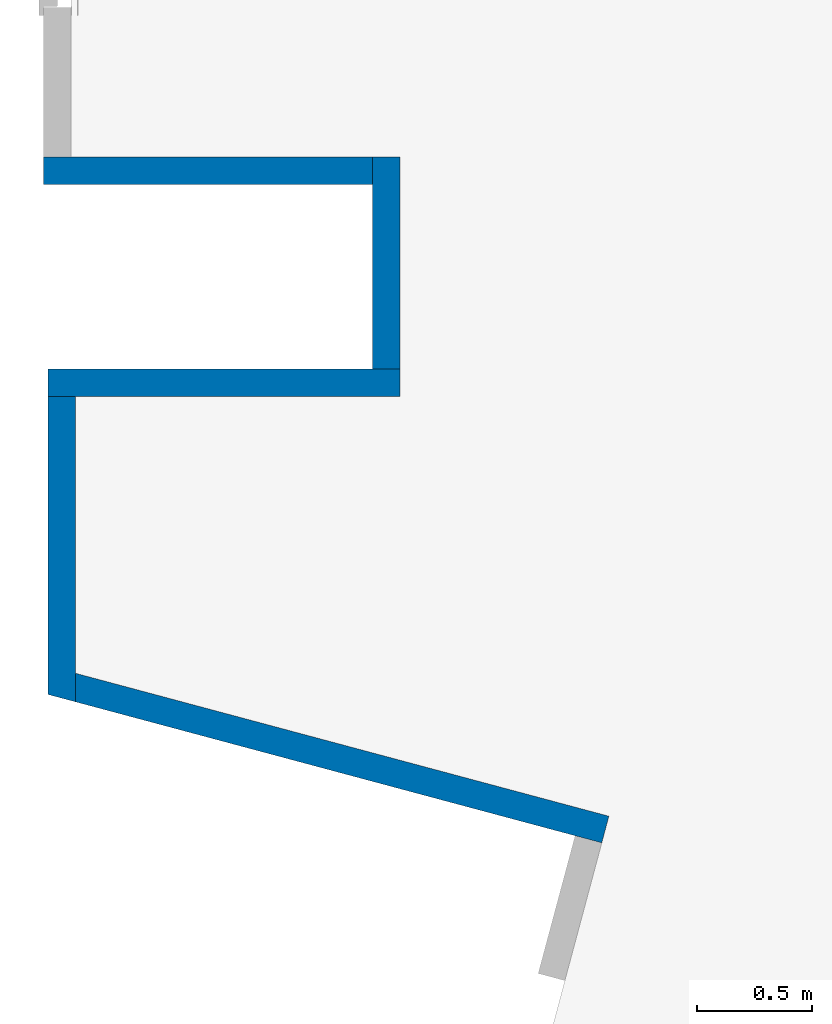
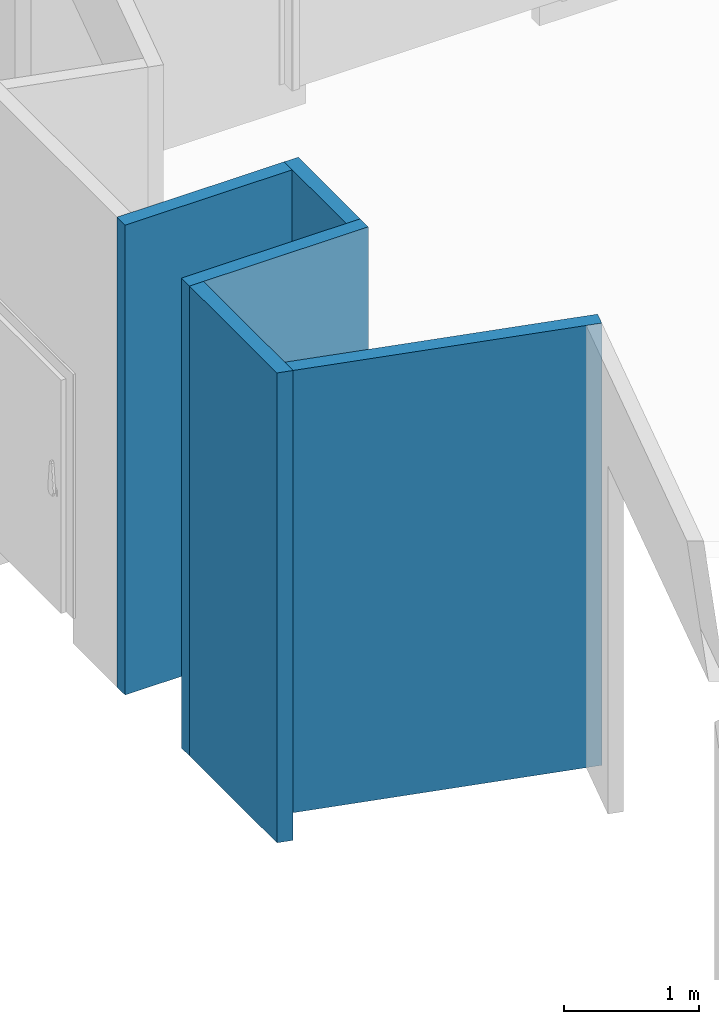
# One storey, part 4 of 652: 5 walls.
"""IFC2X3 building model written with IfcOpenShell, lengths in millimetres."""

from ifc_helpers import new_model, entity, si_unit, converted_unit, direction, frame, frame_2d, origin, place, context, subcontext, project, spatial, polyline, rectangle, outline, extrude, material, layer, layer_set, layer_usage, type_object, element, save


model = new_model("IFC2X3")

# Units and contexts
model_context = context("Model", 3, precision=0.01, world=frame((0.0, 0.0, 308426.39999999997)), true_north=direction((6.123233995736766e-17, 1.0)))
plan_context = context("Plan", 3, precision=0.01, world=frame((0.0, 0.0, 308426.39999999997)), true_north=direction((6.123233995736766e-17, 1.0)))
body_context = subcontext(model_context, "Body", "Model", "MODEL_VIEW")
ifc_project = project(units=[si_unit("LENGTHUNIT", "METRE", prefix="MILLI"), si_unit("AREAUNIT", "SQUARE_METRE"), si_unit("VOLUMEUNIT", "CUBIC_METRE"), converted_unit("PLANEANGLEUNIT", "DEGREE", entity("IfcPlaneAngleMeasure", 0.017453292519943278), si_unit("PLANEANGLEUNIT", "RADIAN"), dimensions=[0, 0, 0, 0, 0, 0, 0])], contexts=[model_context, plan_context])

# Site, building, storey
site_placement = place(None, origin())
site = spatial("IfcSite", under=ifc_project, at=site_placement, Name="Default", CompositionType="ELEMENT")
building_placement = place(site_placement, origin())
building = spatial("IfcBuilding", under=site, at=building_placement, CompositionType="ELEMENT")
storey_placement = place(building_placement, frame((0.0, 0.0, 1730.6999999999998)))
storey = spatial("IfcBuildingStorey", under=building, at=storey_placement, Name="EG_Produktion_FFB", CompositionType="ELEMENT", Elevation=1730.6999999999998)

# Walls
ifc_material = material(Name="GPG_Paneelwand")
ifc_layer = layer(ifc_material, 120.0)
ifc_layer_set = layer_set([ifc_layer], Name="Basiswand:Kühlzellen Paneelwand 120")
ifc_layer_usage_1 = layer_usage(ifc_layer_set, "AXIS2", "NEGATIVE", 60.0)
wall_type = type_object("IfcWallType", Name="Basiswand:Kühlzellen Paneelwand 120", PredefinedType="STANDARD", material=ifc_layer_set)
wall_1_placement = place(storey_placement, frame((9690.0, 51140.0, -250.0)))
element("IfcWallStandardCase", 1, at=wall_1_placement, inside=storey, type_object=wall_type, material=ifc_layer_usage_1, Name="Basiswand:Kühlzellen Paneelwand 120", ObjectType="Basiswand:Kühlzellen Paneelwand 120", context=body_context, shape_type="SweptSolid", body=[
    extrude(rectangle(XDim=1530.0000000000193, YDim=120.00000000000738, at=frame_2d((765.0000000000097, 0.0), x_axis=(-1.0, 0.0))), origin(), (0.0, 0.0, 1.0), 4250.0),
])
ifc_layer_usage_2 = layer_usage(ifc_layer_set, "AXIS2", "NEGATIVE", 60.0)
wall_2_placement = place(storey_placement, frame((11160.0, 51200.0, -250.0), z_axis=(0.0, 0.0, 1.0), x_axis=(0.0, 1.0, 0.0)))
element("IfcWallStandardCase", 2, at=wall_2_placement, inside=storey, type_object=wall_type, material=ifc_layer_usage_2, Name="Basiswand:Kühlzellen Paneelwand 120", ObjectType="Basiswand:Kühlzellen Paneelwand 120", context=body_context, shape_type="SweptSolid", body=[
    extrude(rectangle(XDim=919.9999999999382, YDim=119.9999999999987, at=frame_2d((459.9999999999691, 0.0), x_axis=(-1.0, 0.0))), origin(), (0.0, 0.0, 1.0), 4250.0),
])
ifc_layer_usage_3 = layer_usage(ifc_layer_set, "AXIS2", "NEGATIVE", 60.0)
wall_3_placement = place(storey_placement, frame((11100.0, 52060.0, -250.0), z_axis=(0.0, 0.0, 1.0), x_axis=(-1.0, 0.0, 0.0)))
element("IfcWallStandardCase", 3, at=wall_3_placement, inside=storey, type_object=wall_type, material=ifc_layer_usage_3, Name="Basiswand:Kühlzellen Paneelwand 120", ObjectType="Basiswand:Kühlzellen Paneelwand 120", context=body_context, shape_type="SweptSolid", body=[
    extrude(rectangle(XDim=1429.9999999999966, YDim=120.00000000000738, at=frame_2d((714.9999999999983, 0.0), x_axis=(-1.0, 0.0))), origin(), (0.0, 0.0, 1.0), 4250.0),
])
ifc_layer_usage_4 = layer_usage(ifc_layer_set, "AXIS2", "POSITIVE", -60.0)
wall_4_placement = place(storey_placement, frame((9750.0, 51080.0, -250.0), z_axis=(0.0, 0.0, 1.0), x_axis=(0.0, -1.0, 0.0)))
element("IfcWallStandardCase", 4, at=wall_4_placement, inside=storey, type_object=wall_type, material=ifc_layer_usage_4, Name="Basiswand:Kühlzellen Paneelwand 120", ObjectType="Basiswand:Kühlzellen Paneelwand 120", context=body_context, shape_type="SweptSolid", body=[
    extrude(outline(polyline([(1296.0643799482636, -60.0), (1328.218283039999, 60.0), (0.0, 60.0), (0.0, -60.0), (1296.0643799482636, -60.0)])), origin(), (0.0, 0.0, 1.0), 4250.0),
])
ifc_layer_usage_5 = layer_usage(ifc_layer_set, "AXIS2", "POSITIVE", -60.0)
wall_5_placement = place(storey_placement, frame((9794.470857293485, 49818.059309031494, 0.0), z_axis=(0.0, 0.0, 1.0), x_axis=(0.9659258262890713, -0.2588190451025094, 0.0)))
element("IfcWallStandardCase", 5, at=wall_5_placement, inside=storey, type_object=wall_type, material=ifc_layer_usage_5, Name="Basiswand:Kühlzellen Paneelwand 120", ObjectType="Basiswand:Kühlzellen Paneelwand 120", context=body_context, shape_type="SweptSolid", body=[
    extrude(outline(polyline([(2399.900448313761, -60.0), (2399.900448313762, 60.0), (0.0, 60.0), (32.15390309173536, -60.0), (2279.900448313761, -60.0), (2399.900448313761, -60.0)])), origin(), (0.0, 0.0, 1.0), 4000.0000000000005),
])

save(model, "model.ifc")
